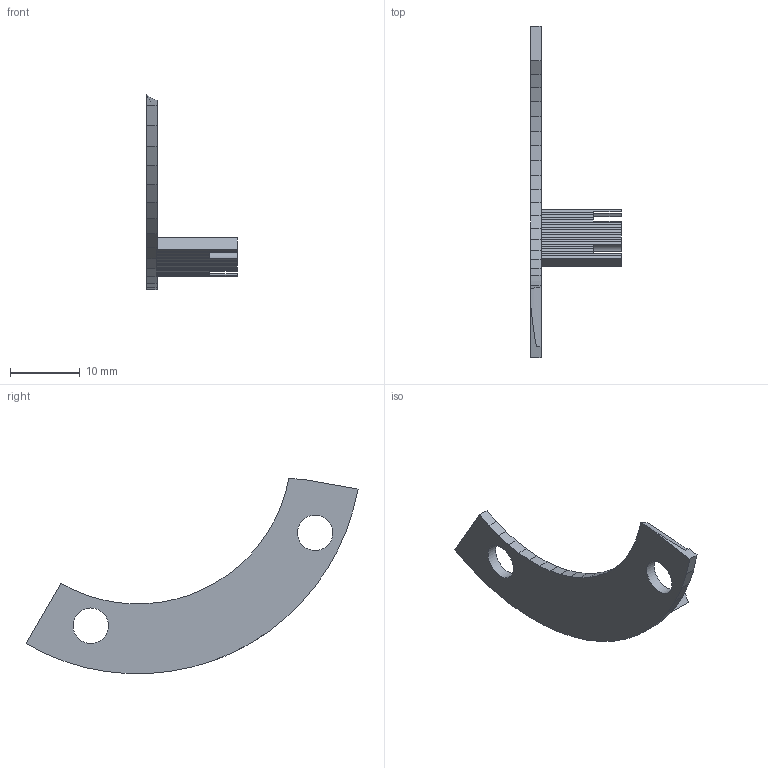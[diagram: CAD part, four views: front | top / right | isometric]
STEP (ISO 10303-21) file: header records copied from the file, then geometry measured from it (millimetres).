
FILE_DESCRIPTION(('Open CASCADE Model'),'2;1');
FILE_NAME('B3_R12_front_support_and_carrier','2026-09-28T18:17:15',( 'Author'),('Open CASCADE'),'Open CASCADE STEP processor 7.9', 'build123d','Unknown');
FILE_SCHEMA(('AUTOMOTIVE_DESIGN { 1 0 10303 214 1 1 1 1 }'));
Length unit declared in the file: millimetre
Products named in the file (1): B3_R12_front_support_and_carrier
Bounding box: 13 x 47.51 x 27.93 mm (x, y, z)
Volume: 862.9 mm3; surface area: 1417.8 mm2
Topology: 1 solids, 1 shells, 105 faces, 306 edges, 203 vertices
Faces by surface type: plane 97, cylinder 8
Full cylindrical faces by diameter (mm): 5.08 x2
Entity records: 7301 total; most frequent: CARTESIAN_POINT 1364, DIRECTION 1019, LINE 756, VECTOR 756, ORIENTED_EDGE 612, PCURVE 612, DEFINITIONAL_REPRESENTATION 612, EDGE_CURVE 306
